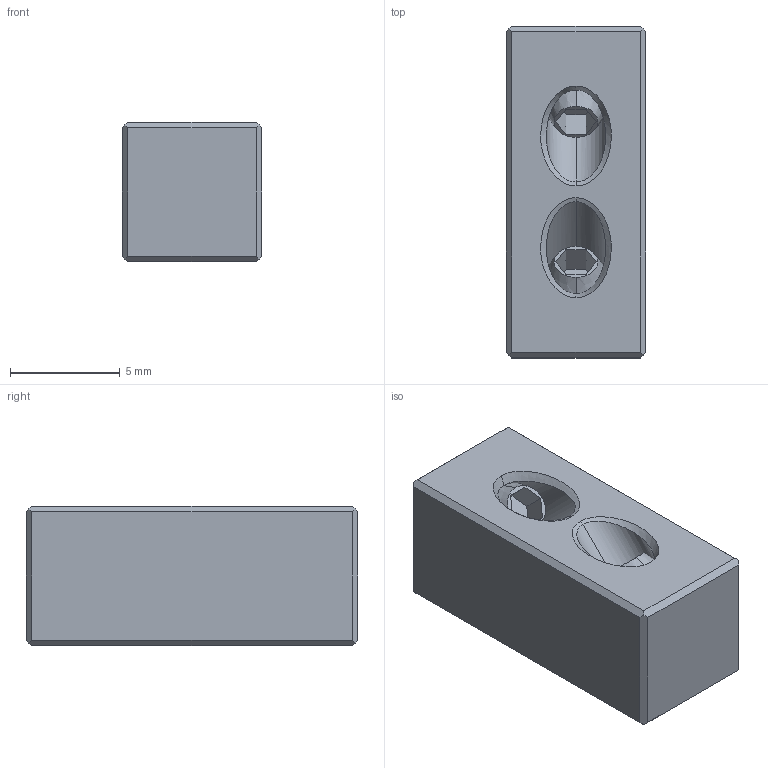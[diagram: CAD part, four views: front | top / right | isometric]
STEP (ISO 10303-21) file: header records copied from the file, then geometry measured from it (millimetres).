
FILE_DESCRIPTION((''),'2;1');
FILE_NAME('RMC-0010','2007-09-24T',('glafferty'),('Pleasant Precision, Inc. (419)675-0556'),'PRO/ENGINEER BY PARAMETRIC TECHNOLOGY CORPORATION, 2006080','PRO/ENGINEER BY PARAMETRIC TECHNOLOGY CORPORATION, 2006080','');
FILE_SCHEMA(('CONFIG_CONTROL_DESIGN'));
Length unit declared in the file: inch
Products named in the file (1): RMC-0010
Bounding box: 6.35 x 15.09 x 6.35 mm (x, y, z)
Volume: 581.6 mm3; surface area: 493.4 mm2
Topology: 1 solids, 1 shells, 46 faces, 112 edges, 72 vertices
Faces by surface type: plane 34, bspline 4, cylinder 4, cone 4
Entity records: 1848 total; most frequent: CARTESIAN_POINT 746, ORIENTED_EDGE 224, DIRECTION 196, EDGE_CURVE 112, VECTOR 96, LINE 96, VERTEX_POINT 72, AXIS2_PLACEMENT_3D 50
